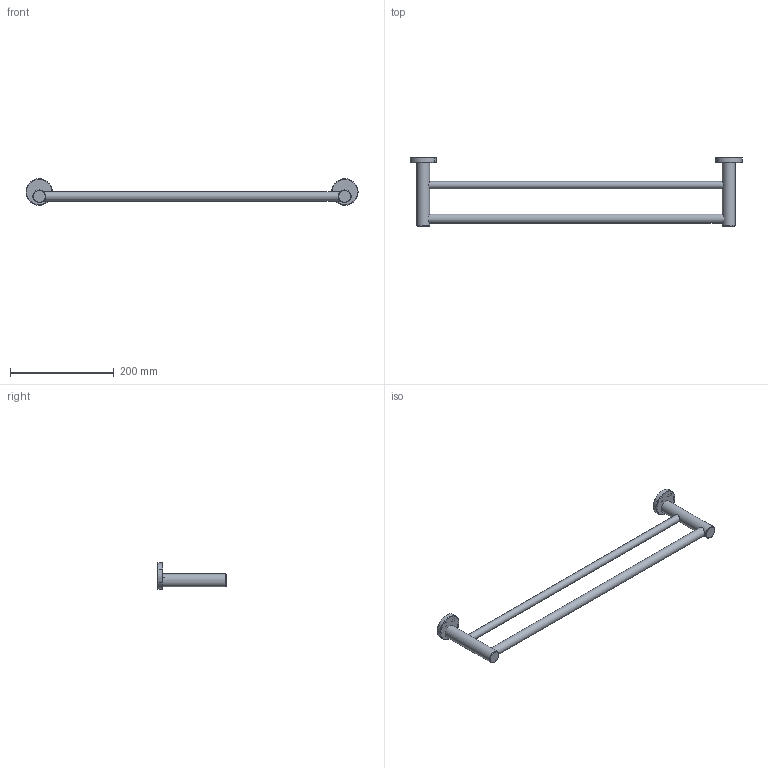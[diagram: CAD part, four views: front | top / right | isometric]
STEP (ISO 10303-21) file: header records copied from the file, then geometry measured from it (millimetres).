
FILE_DESCRIPTION(/* description */ (''),/* implementation_level */ '2;1');
FILE_NAME(/* name */ '4111115',/* time_stamp */ '2019-08-26T09:19:01+08:00',/* author */ (''),/* organization */ (''),/* preprocessor_version */ 'ST-DEVELOPER v9',/* originating_system */ 'UGS - NX 4.0',/* authorisation */ '');
FILE_SCHEMA (('CONFIG_CONTROL_DESIGN'));
Length unit declared in the file: millimetre
Products named in the file (1): w335DEEtk33
Bounding box: 641 x 131.3 x 51 mm (x, y, z)
Volume: 374010 mm3; surface area: 109888 mm2
Topology: 8 solids, 8 shells, 164 faces, 398 edges, 266 vertices
Faces by surface type: plane 86, cylinder 72, torus 6
Full cylindrical faces by diameter (mm): 6.2 x2, 14 x3, 18 x3, 24.8 x2, 50 x2, 51 x2
Entity records: 4852 total; most frequent: CARTESIAN_POINT 877, DIRECTION 842, ORIENTED_EDGE 740, EDGE_CURVE 370, AXIS2_PLACEMENT_3D 311, VERTEX_POINT 258, LINE 220, VECTOR 220
